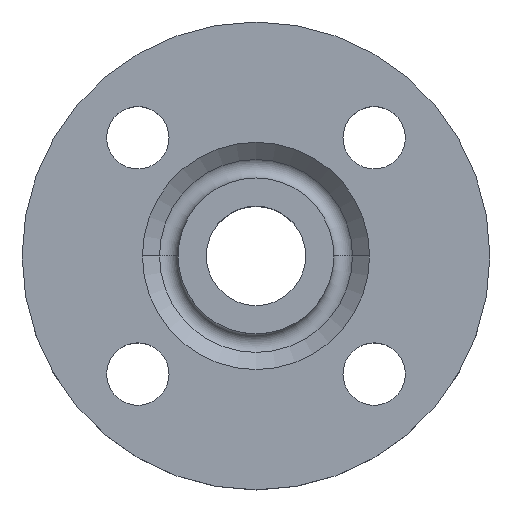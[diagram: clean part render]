
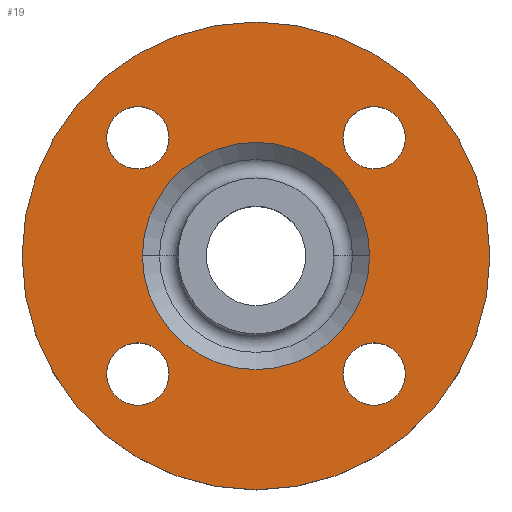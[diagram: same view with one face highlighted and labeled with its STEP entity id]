
A CAD part, top view. The second image highlights one B-rep face of the part: STEP entity #19.
In plain terms, the highlighted planar face has unit normal (0, 0, 1).
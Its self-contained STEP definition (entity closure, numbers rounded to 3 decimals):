
#8 = CARTESIAN_POINT ( 'NONE',  ( 33.517, 26.517, -2. ) ) ;
#14 = CARTESIAN_POINT ( 'NONE',  ( 19.517, 26.517, -2. ) ) ;
#17 = CIRCLE ( 'NONE', #293, 52.5 ) ;
#19 = ADVANCED_FACE ( 'NONE', ( #826, #828, #829, #831, #832, #833 ), #836, .T. ) ;
#24 = CARTESIAN_POINT ( 'NONE',  ( -19.517, 26.517, -2. ) ) ;
#28 = CIRCLE ( 'NONE', #296, 25.5 ) ;
#33 = CARTESIAN_POINT ( 'NONE',  ( -52.5, 0., -2. ) ) ;
#34 = CARTESIAN_POINT ( 'NONE',  ( 19.517, -26.517, -2. ) ) ;
#41 = EDGE_CURVE ( 'NONE', #622, #634, #408, .T. ) ;
#67 = CARTESIAN_POINT ( 'NONE',  ( 0., 0., -2. ) ) ;
#76 = DIRECTION ( 'NONE',  ( -1., 0., 0. ) ) ;
#79 = EDGE_CURVE ( 'NONE', #523, #804, #397, .T. ) ;
#85 = DIRECTION ( 'NONE',  ( -1., 0., 0. ) ) ;
#88 = CARTESIAN_POINT ( 'NONE',  ( 0., 0., -2. ) ) ;
#92 = DIRECTION ( 'NONE',  ( 0., 0., -1. ) ) ;
#108 = DIRECTION ( 'NONE',  ( 0., 0., -1. ) ) ;
#119 = CARTESIAN_POINT ( 'NONE',  ( -19.517, -26.517, -2. ) ) ;
#124 = CARTESIAN_POINT ( 'NONE',  ( 25.5, 0., -2. ) ) ;
#128 = CARTESIAN_POINT ( 'NONE',  ( 52.5, 0., -2. ) ) ;
#134 = EDGE_CURVE ( 'NONE', #804, #523, #377, .T. ) ;
#160 = AXIS2_PLACEMENT_3D ( 'NONE', #435, #437, #440 ) ;
#167 = CIRCLE ( 'NONE', #160, 7. ) ;
#173 = CARTESIAN_POINT ( 'NONE',  ( 0., 0., -2. ) ) ;
#176 = DIRECTION ( 'NONE',  ( 0., 0., -1. ) ) ;
#179 = DIRECTION ( 'NONE',  ( -1., 0., 0. ) ) ;
#181 = CARTESIAN_POINT ( 'NONE',  ( -26.517, -26.517, -2. ) ) ;
#183 = DIRECTION ( 'NONE',  ( 0., 0., -1. ) ) ;
#184 = DIRECTION ( 'NONE',  ( 1., 0., 0. ) ) ;
#190 = CARTESIAN_POINT ( 'NONE',  ( -33.517, -26.517, -2. ) ) ;
#192 = CARTESIAN_POINT ( 'NONE',  ( -33.517, 26.517, -2. ) ) ;
#199 = CARTESIAN_POINT ( 'NONE',  ( 33.517, -26.517, -2. ) ) ;
#200 = CARTESIAN_POINT ( 'NONE',  ( -25.5, 0., -2. ) ) ;
#204 = CARTESIAN_POINT ( 'NONE',  ( -26.517, -26.517, -2. ) ) ;
#205 = DIRECTION ( 'NONE',  ( 0., 0., -1. ) ) ;
#207 = DIRECTION ( 'NONE',  ( 1., 0., 0. ) ) ;
#244 = CIRCLE ( 'NONE', #733, 7. ) ;
#247 = AXIS2_PLACEMENT_3D ( 'NONE', #181, #183, #184 ) ;
#248 = CIRCLE ( 'NONE', #247, 7. ) ;
#250 = AXIS2_PLACEMENT_3D ( 'NONE', #173, #176, #179 ) ;
#252 = CIRCLE ( 'NONE', #250, 52.5 ) ;
#262 = AXIS2_PLACEMENT_3D ( 'NONE', #330, #342, #346 ) ;
#264 = CIRCLE ( 'NONE', #275, 7. ) ;
#274 = CIRCLE ( 'NONE', #262, 25.5 ) ;
#275 = AXIS2_PLACEMENT_3D ( 'NONE', #347, #345, #344 ) ;
#277 = EDGE_CURVE ( 'NONE', #820, #806, #290, .T. ) ;
#288 = AXIS2_PLACEMENT_3D ( 'NONE', #204, #205, #207 ) ;
#290 = CIRCLE ( 'NONE', #288, 7. ) ;
#293 = AXIS2_PLACEMENT_3D ( 'NONE', #88, #92, #85 ) ;
#296 = AXIS2_PLACEMENT_3D ( 'NONE', #67, #108, #76 ) ;
#300 = EDGE_CURVE ( 'NONE', #790, #819, #274, .T. ) ;
#318 = EDGE_CURVE ( 'NONE', #644, #817, #252, .T. ) ;
#330 = CARTESIAN_POINT ( 'NONE',  ( 0., 0., -2. ) ) ;
#342 = DIRECTION ( 'NONE',  ( 0., 0., -1. ) ) ;
#344 = DIRECTION ( 'NONE',  ( 1., 0., 0. ) ) ;
#345 = DIRECTION ( 'NONE',  ( 0., 0., -1. ) ) ;
#346 = DIRECTION ( 'NONE',  ( -1., 0., 0. ) ) ;
#347 = CARTESIAN_POINT ( 'NONE',  ( 26.517, -26.517, -2. ) ) ;
#352 = EDGE_CURVE ( 'NONE', #806, #820, #248, .T. ) ;
#372 = AXIS2_PLACEMENT_3D ( 'NONE', #876, #878, #879 ) ;
#377 = CIRCLE ( 'NONE', #372, 7. ) ;
#394 = AXIS2_PLACEMENT_3D ( 'NONE', #868, #870, #871 ) ;
#397 = CIRCLE ( 'NONE', #394, 7. ) ;
#408 = CIRCLE ( 'NONE', #421, 7. ) ;
#416 = EDGE_CURVE ( 'NONE', #797, #519, #167, .T. ) ;
#421 = AXIS2_PLACEMENT_3D ( 'NONE', #857, #859, #861 ) ;
#427 = AXIS2_PLACEMENT_3D ( 'NONE', #837, #839, #840 ) ;
#435 = CARTESIAN_POINT ( 'NONE',  ( 26.517, -26.517, -2. ) ) ;
#437 = DIRECTION ( 'NONE',  ( 0., 0., -1. ) ) ;
#440 = DIRECTION ( 'NONE',  ( 1., 0., 0. ) ) ;
#445 = EDGE_CURVE ( 'NONE', #819, #790, #28, .T. ) ;
#480 = EDGE_CURVE ( 'NONE', #817, #644, #17, .T. ) ;
#498 = ORIENTED_EDGE ( 'NONE', *, *, #352, .T. ) ;
#500 = ORIENTED_EDGE ( 'NONE', *, *, #79, .T. ) ;
#501 = ORIENTED_EDGE ( 'NONE', *, *, #134, .T. ) ;
#516 = EDGE_LOOP ( 'NONE', ( #611, #613 ) ) ;
#519 = VERTEX_POINT ( 'NONE', #34 ) ;
#523 = VERTEX_POINT ( 'NONE', #24 ) ;
#605 = ORIENTED_EDGE ( 'NONE', *, *, #416, .T. ) ;
#606 = ORIENTED_EDGE ( 'NONE', *, *, #675, .T. ) ;
#607 = ORIENTED_EDGE ( 'NONE', *, *, #277, .T. ) ;
#608 = ORIENTED_EDGE ( 'NONE', *, *, #41, .T. ) ;
#609 = ORIENTED_EDGE ( 'NONE', *, *, #873, .T. ) ;
#611 = ORIENTED_EDGE ( 'NONE', *, *, #445, .T. ) ;
#613 = ORIENTED_EDGE ( 'NONE', *, *, #300, .T. ) ;
#614 = ORIENTED_EDGE ( 'NONE', *, *, #480, .F. ) ;
#615 = ORIENTED_EDGE ( 'NONE', *, *, #318, .F. ) ;
#622 = VERTEX_POINT ( 'NONE', #8 ) ;
#634 = VERTEX_POINT ( 'NONE', #14 ) ;
#644 = VERTEX_POINT ( 'NONE', #33 ) ;
#675 = EDGE_CURVE ( 'NONE', #519, #797, #264, .T. ) ;
#696 = EDGE_LOOP ( 'NONE', ( #605, #606 ) ) ;
#700 = EDGE_LOOP ( 'NONE', ( #607, #498 ) ) ;
#725 = EDGE_LOOP ( 'NONE', ( #500, #501 ) ) ;
#733 = AXIS2_PLACEMENT_3D ( 'NONE', #778, #777, #772 ) ;
#772 = DIRECTION ( 'NONE',  ( 1., 0., 0. ) ) ;
#776 = EDGE_LOOP ( 'NONE', ( #608, #609 ) ) ;
#777 = DIRECTION ( 'NONE',  ( 0., 0., -1. ) ) ;
#778 = CARTESIAN_POINT ( 'NONE',  ( 26.517, 26.517, -2. ) ) ;
#790 = VERTEX_POINT ( 'NONE', #200 ) ;
#797 = VERTEX_POINT ( 'NONE', #199 ) ;
#804 = VERTEX_POINT ( 'NONE', #192 ) ;
#806 = VERTEX_POINT ( 'NONE', #190 ) ;
#817 = VERTEX_POINT ( 'NONE', #128 ) ;
#819 = VERTEX_POINT ( 'NONE', #124 ) ;
#820 = VERTEX_POINT ( 'NONE', #119 ) ;
#824 = EDGE_LOOP ( 'NONE', ( #614, #615 ) ) ;
#826 = FACE_BOUND ( 'NONE', #696, .T. ) ;
#828 = FACE_BOUND ( 'NONE', #700, .T. ) ;
#829 = FACE_BOUND ( 'NONE', #725, .T. ) ;
#831 = FACE_BOUND ( 'NONE', #776, .T. ) ;
#832 = FACE_BOUND ( 'NONE', #516, .T. ) ;
#833 = FACE_OUTER_BOUND ( 'NONE', #824, .T. ) ;
#836 = PLANE ( 'NONE',  #427 ) ;
#837 = CARTESIAN_POINT ( 'NONE',  ( 52.5, 0., -2. ) ) ;
#839 = DIRECTION ( 'NONE',  ( 0., 0., 1. ) ) ;
#840 = DIRECTION ( 'NONE',  ( 1., 0., 0. ) ) ;
#857 = CARTESIAN_POINT ( 'NONE',  ( 26.517, 26.517, -2. ) ) ;
#859 = DIRECTION ( 'NONE',  ( 0., 0., -1. ) ) ;
#861 = DIRECTION ( 'NONE',  ( 1., 0., 0. ) ) ;
#868 = CARTESIAN_POINT ( 'NONE',  ( -26.517, 26.517, -2. ) ) ;
#870 = DIRECTION ( 'NONE',  ( 0., 0., -1. ) ) ;
#871 = DIRECTION ( 'NONE',  ( 1., 0., 0. ) ) ;
#873 = EDGE_CURVE ( 'NONE', #634, #622, #244, .T. ) ;
#876 = CARTESIAN_POINT ( 'NONE',  ( -26.517, 26.517, -2. ) ) ;
#878 = DIRECTION ( 'NONE',  ( 0., 0., -1. ) ) ;
#879 = DIRECTION ( 'NONE',  ( 1., 0., 0. ) ) ;
